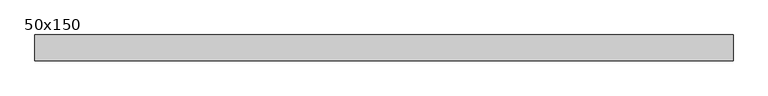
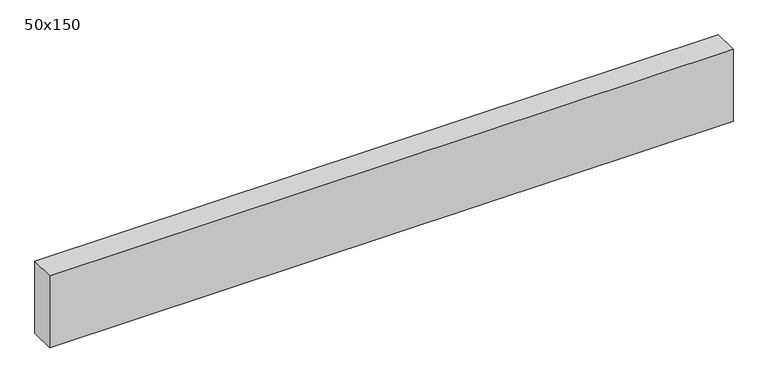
"""IFC4 building model written with IfcOpenShell, lengths in millimetres: beam geometry, Graded Timber : 50x150."""

from ifc_helpers import new_model, si_unit, frame, origin, place, context, project, spatial, polyline, outline, extrude, source, transform, mapped, element, save


def beam_50x150_175bfbe0(model_context):
    return source(origin(), model_context, "Body", "SweptSolid", [
        extrude(outline(polyline([(674.0, 25.0), (674.0, -25.0), (-674.0, -25.0), (-674.0, 25.0), (674.0, 25.0)])), frame((0.0, 0.0, -75.0), z_axis=(0.0, 0.0, 1.0), x_axis=(1.0, 0.0, 0.0)), (0.0, 0.0, 1.0), 150.0),
    ])


if __name__ == "__main__":
    model = new_model("IFC4")
    model_context = context("Model", 3, world=origin())
    ifc_project = project(units=[si_unit("LENGTHUNIT", "METRE", prefix="MILLI")], contexts=[model_context])
    site = spatial("IfcSite", under=ifc_project)
    building = spatial("IfcBuilding", under=site)
    placement = place(None, origin())
    beam_50x150_shape = beam_50x150_175bfbe0(model_context)
    element("IfcBeam", 1, ObjectType="Graded Timber : 50x150", at=placement, inside=building, context=model_context, shape_type="MappedRepresentation", body=[
        mapped(beam_50x150_shape, transform((0.0, 0.0, 0.0), x_axis=(1.0, 0.0, 0.0), y_axis=(0.0, 1.0, 0.0), z_axis=(0.0, 0.0, 1.0))),
    ])
    save(model, "model.ifc")
